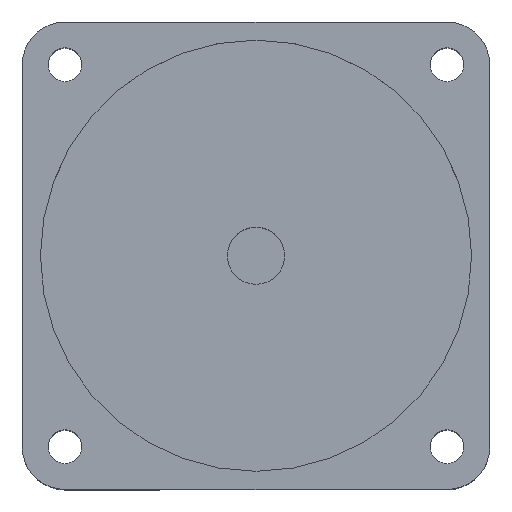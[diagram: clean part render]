
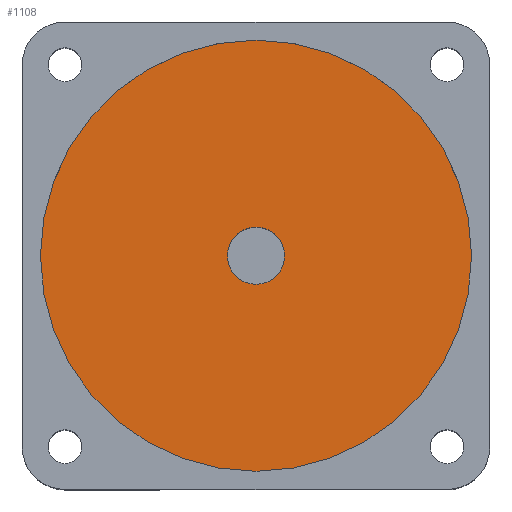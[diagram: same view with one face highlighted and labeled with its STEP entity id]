
A CAD part, top view. The second image highlights one B-rep face of the part: STEP entity #1108.
In plain terms, the highlighted planar face has unit normal (0, 0, 1).
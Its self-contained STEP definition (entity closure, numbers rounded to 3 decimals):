
#43 = CARTESIAN_POINT ( 'NONE',  ( 41.5, 0., -2. ) ) ;
#65 = AXIS2_PLACEMENT_3D ( 'NONE', #590, #490, #773 ) ;
#71 = EDGE_CURVE ( 'NONE', #437, #703, #423, .T. ) ;
#76 = DIRECTION ( 'NONE',  ( 0., 0., -1. ) ) ;
#89 = CIRCLE ( 'NONE', #191, 5.5 ) ;
#127 = CIRCLE ( 'NONE', #167, 5.5 ) ;
#167 = AXIS2_PLACEMENT_3D ( 'NONE', #367, #76, #1126 ) ;
#191 = AXIS2_PLACEMENT_3D ( 'NONE', #1119, #272, #343 ) ;
#217 = DIRECTION ( 'NONE',  ( 0., 0., 1. ) ) ;
#272 = DIRECTION ( 'NONE',  ( 0., 0., -1. ) ) ;
#343 = DIRECTION ( 'NONE',  ( 1., 0., 0. ) ) ;
#360 = ORIENTED_EDGE ( 'NONE', *, *, #71, .T. ) ;
#367 = CARTESIAN_POINT ( 'NONE',  ( 0., 0., -2. ) ) ;
#372 = CARTESIAN_POINT ( 'NONE',  ( 0., 0., -2. ) ) ;
#423 = CIRCLE ( 'NONE', #1057, 41.5 ) ;
#437 = VERTEX_POINT ( 'NONE', #457 ) ;
#457 = CARTESIAN_POINT ( 'NONE',  ( -41.5, 0., -2. ) ) ;
#490 = DIRECTION ( 'NONE',  ( 0., 0., 1. ) ) ;
#492 = EDGE_CURVE ( 'NONE', #638, #1182, #127, .T. ) ;
#582 = EDGE_CURVE ( 'NONE', #703, #437, #600, .T. ) ;
#590 = CARTESIAN_POINT ( 'NONE',  ( 0., 0., -2. ) ) ;
#600 = CIRCLE ( 'NONE', #65, 41.5 ) ;
#602 = CARTESIAN_POINT ( 'NONE',  ( -5.5, 0., -2. ) ) ;
#638 = VERTEX_POINT ( 'NONE', #1158 ) ;
#656 = ORIENTED_EDGE ( 'NONE', *, *, #978, .T. ) ;
#703 = VERTEX_POINT ( 'NONE', #43 ) ;
#749 = DIRECTION ( 'NONE',  ( 0., 0., 1. ) ) ;
#764 = EDGE_LOOP ( 'NONE', ( #1216, #360 ) ) ;
#773 = DIRECTION ( 'NONE',  ( 1., 0., 0. ) ) ;
#785 = DIRECTION ( 'NONE',  ( 1., 0., 0. ) ) ;
#845 = FACE_BOUND ( 'NONE', #1176, .T. ) ;
#886 = ORIENTED_EDGE ( 'NONE', *, *, #492, .T. ) ;
#944 = AXIS2_PLACEMENT_3D ( 'NONE', #372, #749, #1132 ) ;
#960 = CARTESIAN_POINT ( 'NONE',  ( 0., 0., -2. ) ) ;
#978 = EDGE_CURVE ( 'NONE', #1182, #638, #89, .T. ) ;
#1057 = AXIS2_PLACEMENT_3D ( 'NONE', #960, #217, #785 ) ;
#1108 = ADVANCED_FACE ( 'NONE', ( #1148, #845 ), #1228, .T. ) ;
#1119 = CARTESIAN_POINT ( 'NONE',  ( 0., 0., -2. ) ) ;
#1126 = DIRECTION ( 'NONE',  ( 1., 0., 0. ) ) ;
#1132 = DIRECTION ( 'NONE',  ( 1., 0., 0. ) ) ;
#1148 = FACE_OUTER_BOUND ( 'NONE', #764, .T. ) ;
#1158 = CARTESIAN_POINT ( 'NONE',  ( 5.5, 0., -2. ) ) ;
#1176 = EDGE_LOOP ( 'NONE', ( #886, #656 ) ) ;
#1182 = VERTEX_POINT ( 'NONE', #602 ) ;
#1216 = ORIENTED_EDGE ( 'NONE', *, *, #582, .T. ) ;
#1228 = PLANE ( 'NONE',  #944 ) ;
